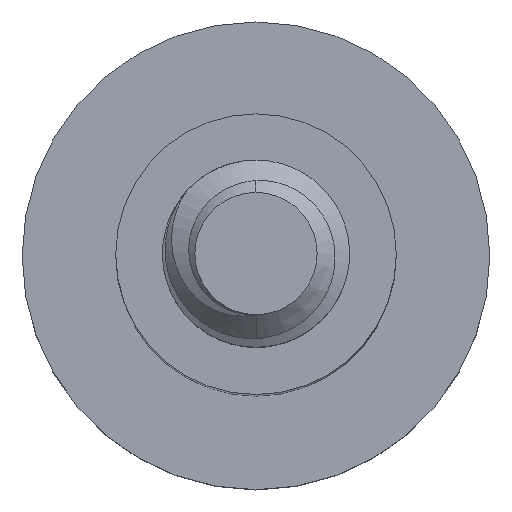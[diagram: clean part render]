
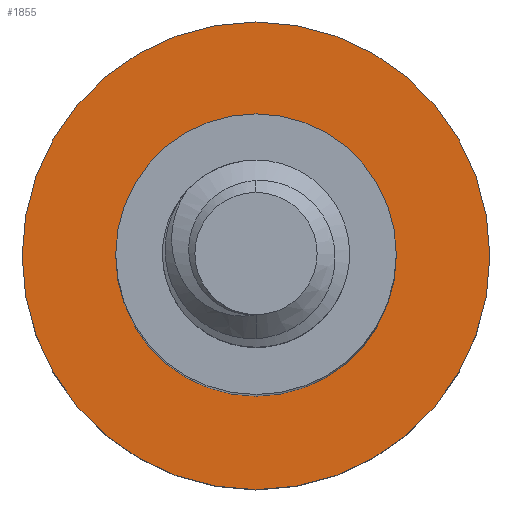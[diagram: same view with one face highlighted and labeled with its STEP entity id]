
A CAD part, top view. The second image highlights one B-rep face of the part: STEP entity #1855.
In plain terms, the highlighted planar face has unit normal (0, 0, 1).
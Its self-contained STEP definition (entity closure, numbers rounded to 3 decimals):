
#103 = DIRECTION ( 'NONE',  ( 0., 0., -1. ) ) ;
#194 = CARTESIAN_POINT ( 'NONE',  ( 2.5, 0., -10. ) ) ;
#240 = DIRECTION ( 'NONE',  ( -1., 0., 0. ) ) ;
#325 = VERTEX_POINT ( 'NONE', #486 ) ;
#427 = DIRECTION ( 'NONE',  ( -1., 0., 0. ) ) ;
#486 = CARTESIAN_POINT ( 'NONE',  ( 1.5, 0., -10. ) ) ;
#512 = CARTESIAN_POINT ( 'NONE',  ( 0., 0., -10. ) ) ;
#531 = CARTESIAN_POINT ( 'NONE',  ( 0., 0., -10. ) ) ;
#557 = AXIS2_PLACEMENT_3D ( 'NONE', #512, #899, #888 ) ;
#698 = FACE_BOUND ( 'NONE', #1173, .T. ) ;
#888 = DIRECTION ( 'NONE',  ( -1., 0., 0. ) ) ;
#899 = DIRECTION ( 'NONE',  ( 0., 0., -1. ) ) ;
#960 = CARTESIAN_POINT ( 'NONE',  ( -2.5, 0., -10. ) ) ;
#982 = VERTEX_POINT ( 'NONE', #960 ) ;
#1053 = PLANE ( 'NONE',  #1282 ) ;
#1079 = CIRCLE ( 'NONE', #1797, 2.5 ) ;
#1082 = CARTESIAN_POINT ( 'NONE',  ( 0., 0., -10. ) ) ;
#1109 = DIRECTION ( 'NONE',  ( 0., 0., -1. ) ) ;
#1173 = EDGE_LOOP ( 'NONE', ( #1212, #1839 ) ) ;
#1212 = ORIENTED_EDGE ( 'NONE', *, *, #1303, .T. ) ;
#1228 = FACE_OUTER_BOUND ( 'NONE', #1773, .T. ) ;
#1282 = AXIS2_PLACEMENT_3D ( 'NONE', #1819, #103, #1468 ) ;
#1303 = EDGE_CURVE ( 'NONE', #1344, #325, #2043, .T. ) ;
#1344 = VERTEX_POINT ( 'NONE', #1852 ) ;
#1408 = VERTEX_POINT ( 'NONE', #194 ) ;
#1458 = DIRECTION ( 'NONE',  ( -1., 0., 0. ) ) ;
#1468 = DIRECTION ( 'NONE',  ( -1., 0., 0. ) ) ;
#1601 = AXIS2_PLACEMENT_3D ( 'NONE', #1082, #1833, #1458 ) ;
#1608 = ORIENTED_EDGE ( 'NONE', *, *, #1900, .F. ) ;
#1641 = EDGE_CURVE ( 'NONE', #982, #1408, #2406, .T. ) ;
#1729 = EDGE_CURVE ( 'NONE', #325, #1344, #2045, .T. ) ;
#1773 = EDGE_LOOP ( 'NONE', ( #1608, #1798 ) ) ;
#1797 = AXIS2_PLACEMENT_3D ( 'NONE', #531, #1109, #240 ) ;
#1798 = ORIENTED_EDGE ( 'NONE', *, *, #1641, .F. ) ;
#1819 = CARTESIAN_POINT ( 'NONE',  ( 0., 0., -10. ) ) ;
#1833 = DIRECTION ( 'NONE',  ( 0., 0., -1. ) ) ;
#1839 = ORIENTED_EDGE ( 'NONE', *, *, #1729, .T. ) ;
#1852 = CARTESIAN_POINT ( 'NONE',  ( -1.5, 0., -10. ) ) ;
#1855 = ADVANCED_FACE ( 'NONE', ( #698, #1228 ), #1053, .F. ) ;
#1900 = EDGE_CURVE ( 'NONE', #1408, #982, #1079, .T. ) ;
#2043 = CIRCLE ( 'NONE', #557, 1.5 ) ;
#2045 = CIRCLE ( 'NONE', #1601, 1.5 ) ;
#2333 = CARTESIAN_POINT ( 'NONE',  ( 0., 0., -10. ) ) ;
#2367 = AXIS2_PLACEMENT_3D ( 'NONE', #2333, #2379, #427 ) ;
#2379 = DIRECTION ( 'NONE',  ( 0., 0., -1. ) ) ;
#2406 = CIRCLE ( 'NONE', #2367, 2.5 ) ;
